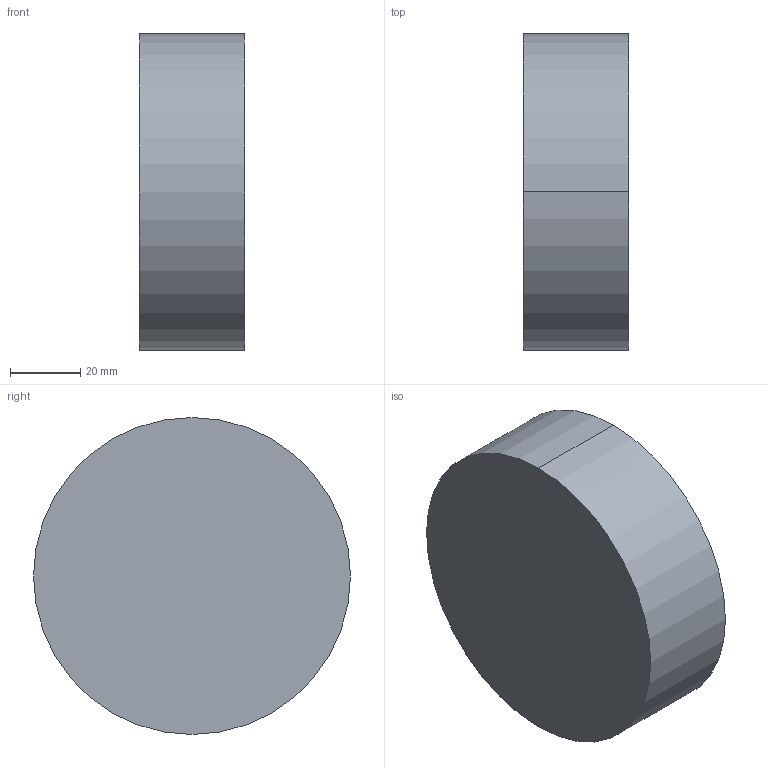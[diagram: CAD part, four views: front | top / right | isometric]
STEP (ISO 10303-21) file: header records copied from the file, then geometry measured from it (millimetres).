
FILE_DESCRIPTION (( 'STEP AP203' ), '1' );
FILE_NAME ('Eslabon5_Default_sldprt.STEP', '2022-03-11T04:15:57', ( '' ), ( '' ), 'SwSTEP 2.0', 'SolidWorks 2020', '' );
FILE_SCHEMA (( 'CONFIG_CONTROL_DESIGN' ));
Length unit declared in the file: millimetre
Products named in the file (1): Eslabon5_Default_sldprt
Bounding box: 30 x 90 x 90 mm (x, y, z)
Volume: 190851.8 mm3; surface area: 21205.8 mm2
Topology: 1 solids, 1 shells, 4 faces, 6 edges, 4 vertices
Faces by surface type: cylinder 2, plane 2
Entity records: 171 total; most frequent: DIRECTION 20, CARTESIAN_POINT 15, ORIENTED_EDGE 12, AXIS2_PLACEMENT_3D 9, PERSON_AND_ORGANIZATION 8, EDGE_CURVE 6, COORDINATED_UNIVERSAL_TIME_OFFSET 5, DATE_AND_TIME 5
